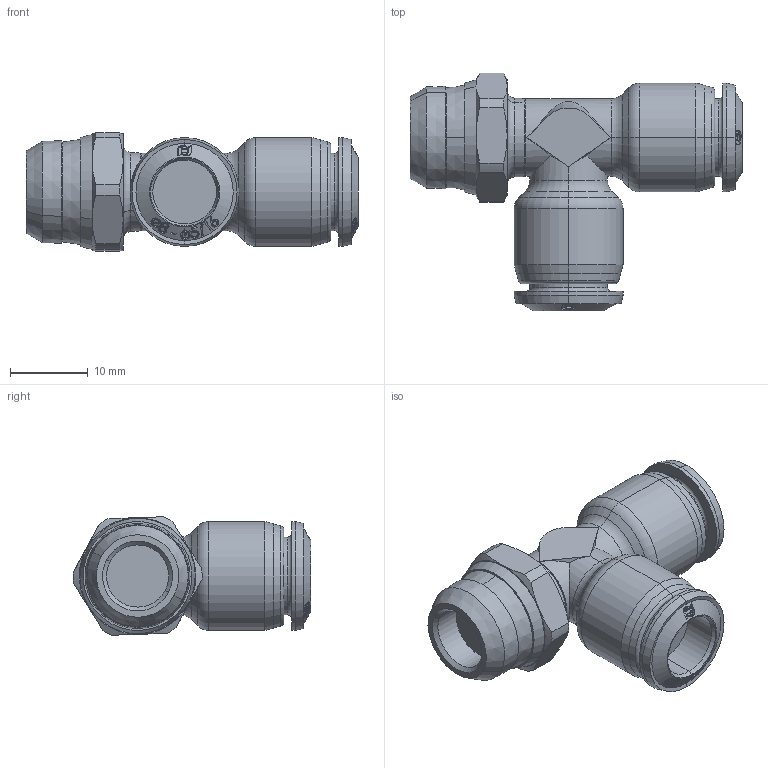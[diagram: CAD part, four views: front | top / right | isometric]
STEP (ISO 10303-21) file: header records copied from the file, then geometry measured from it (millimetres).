
FILE_DESCRIPTION (( 'STEP AP214' ), '1' );
FILE_NAME ('5522300009.step', '2012-10-02T17:41:42', ( '' ), ( '' ), 'SwSTEP 2.0', 'SolidWorks 2012', '' );
FILE_SCHEMA (( 'AUTOMOTIVE_DESIGN' ));
Length unit declared in the file: millimetre
Products named in the file (1): 5522300009
Bounding box: 42.7 x 30.6 x 15.23 mm (x, y, z)
Volume: 6894.5 mm3; surface area: 3667.8 mm2
Topology: 1 solids, 3 shells, 427 faces, 1060 edges, 676 vertices
Faces by surface type: bspline 222, cone 104, cylinder 37, plane 36, torus 28
Entity records: 28703 total; most frequent: CARTESIAN_POINT 15822, ORIENTED_EDGE 2120, EDGE_CURVE 1060, DIRECTION 926, B_SPLINE_CURVE_WITH_KNOTS 728, VERTEX_POINT 676, EDGE_LOOP 468, UNCERTAINTY_MEASURE_WITH_UNIT 430
